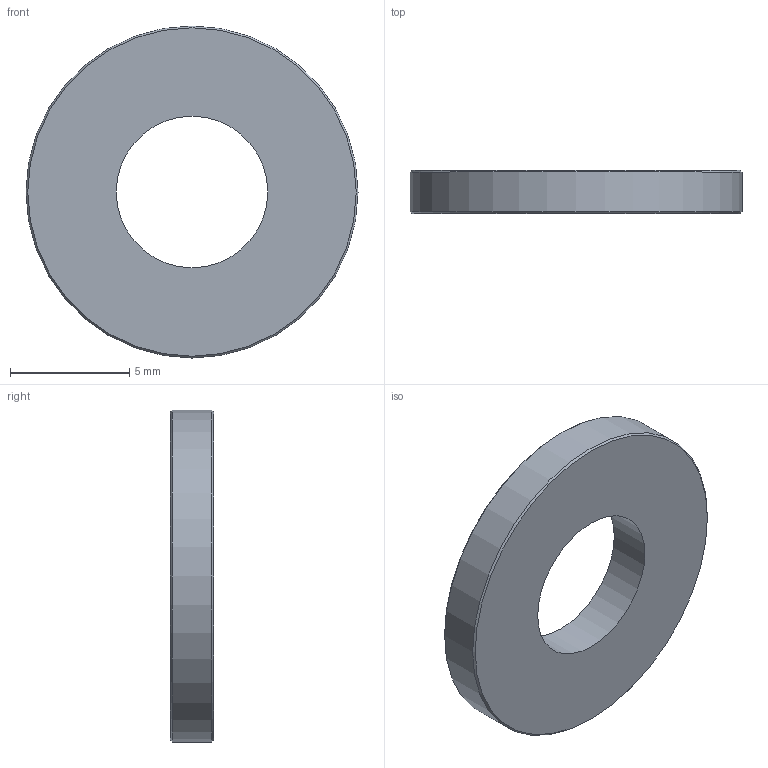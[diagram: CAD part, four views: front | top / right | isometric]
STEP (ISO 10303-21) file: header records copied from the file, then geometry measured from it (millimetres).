
FILE_DESCRIPTION(/* description */ (''),/* implementation_level */ '2;1');
FILE_NAME(/* name */ 'Check Valve PTFE Seal.step',/* time_stamp */ '2026-05-22T17:14:25-04:00',/* author */ (''),/* organization */ (''),/* preprocessor_version */ 'ST-DEVELOPER v20.1',/* originating_system */ 'Autodesk Translation Framework v15.8.0.0',/* authorisation */ '');
FILE_SCHEMA (('AUTOMOTIVE_DESIGN { 1 0 10303 214 3 1 1 }'));
Length unit declared in the file: inch
Products named in the file (1): 96371A203_Abrasion-Resistant ePTFE Plastic Sealing Washer
Bounding box: 13.92 x 1.81 x 13.92 mm (x, y, z)
Volume: 218.3 mm3; surface area: 352.6 mm2
Topology: 1 solids, 1 shells, 6 faces, 12 edges, 8 vertices
Faces by surface type: cone 2, cylinder 2, plane 2
Full cylindrical faces by diameter (mm): 6.35 x1, 13.919 x1
Entity records: 210 total; most frequent: DIRECTION 34, CARTESIAN_POINT 27, ORIENTED_EDGE 24, AXIS2_PLACEMENT_3D 15, EDGE_CURVE 12, EDGE_LOOP 8, CIRCLE 8, VERTEX_POINT 8
